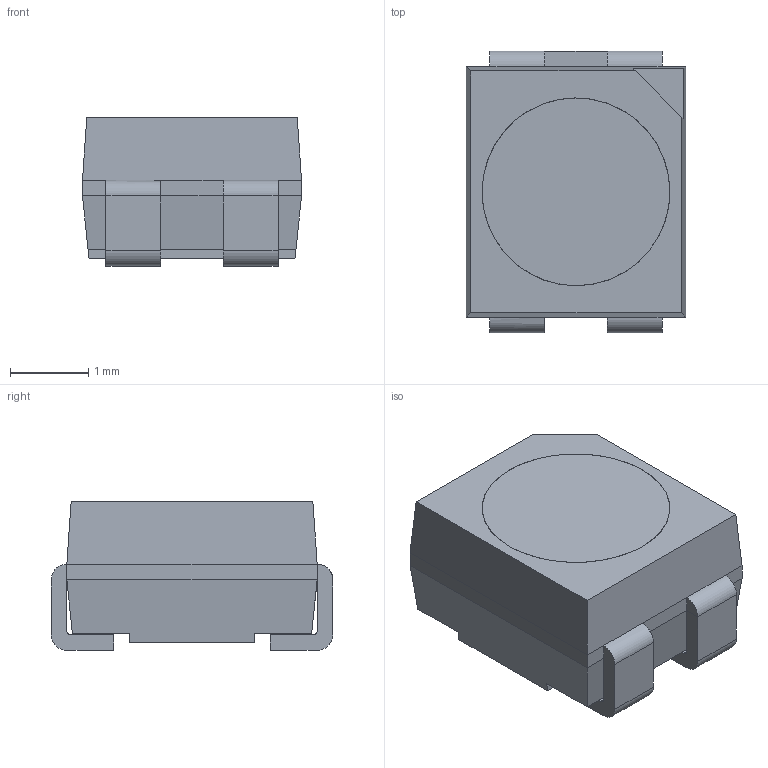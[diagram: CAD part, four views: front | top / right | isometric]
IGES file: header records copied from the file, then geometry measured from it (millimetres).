
Start section: 3D InterOp IGES (Version 20 0 3), Spatial Corp. Copyright (c) 1999-2007.
Global section: file name: DWA-HJS.igs; native system: Spatial Corp.; preprocessor: 3D InterOp ACIS/IGES; author: Noname; organization: Noname; date: 20190920.163825; units: millimetre
Bounding box: 2.8 x 3.6 x 1.9 mm (x, y, z)
Surface area: 60.4 mm2 (no closed solid volume)
Topology: 0 solids, 0 shells, 93 faces, 496 edges, 496 vertices
Faces by surface type: extrusion 69, revolution 24
